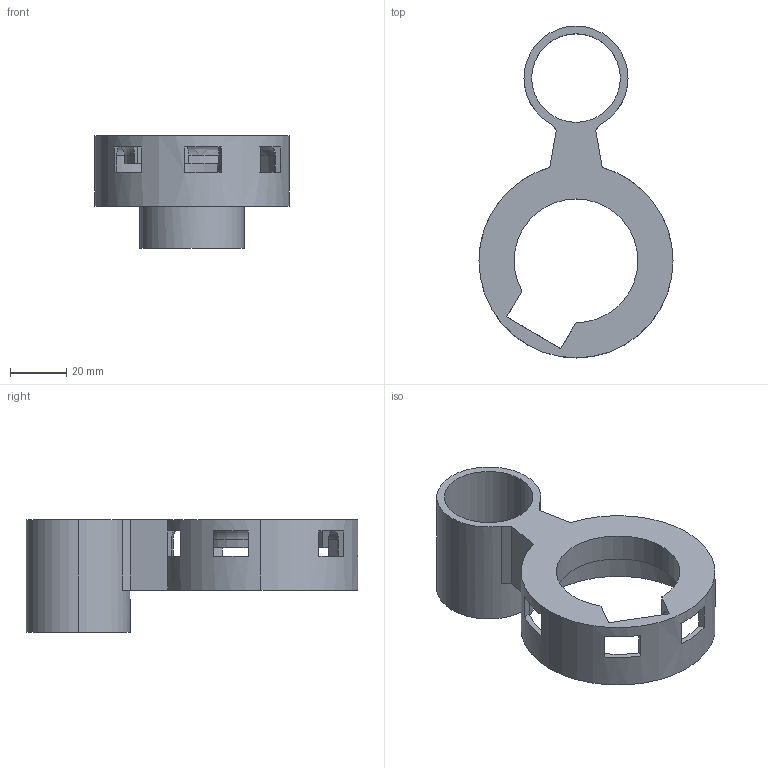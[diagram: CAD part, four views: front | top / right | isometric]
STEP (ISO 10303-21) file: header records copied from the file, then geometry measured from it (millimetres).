
FILE_DESCRIPTION (( 'STEP AP203' ), '1' );
FILE_NAME ('VOZDUHOVOD.STEP', '2023-07-14T06:25:35', ( '' ), ( '' ), 'SwSTEP 2.0', 'SolidWorks 2014', '' );
FILE_SCHEMA (( 'CONFIG_CONTROL_DESIGN' ));
Length unit declared in the file: millimetre
Products named in the file (1): VOZDUHOVOD
Bounding box: 69 x 118 x 40 mm (x, y, z)
Volume: 32844.5 mm3; surface area: 24384.2 mm2
Topology: 1 solids, 1 shells, 61 faces, 196 edges, 128 vertices
Faces by surface type: plane 39, cylinder 16, torus 6
Entity records: 2433 total; most frequent: CARTESIAN_POINT 561, ORIENTED_EDGE 392, DIRECTION 378, EDGE_CURVE 196, AXIS2_PLACEMENT_3D 139, VERTEX_POINT 128, VECTOR 100, LINE 100
